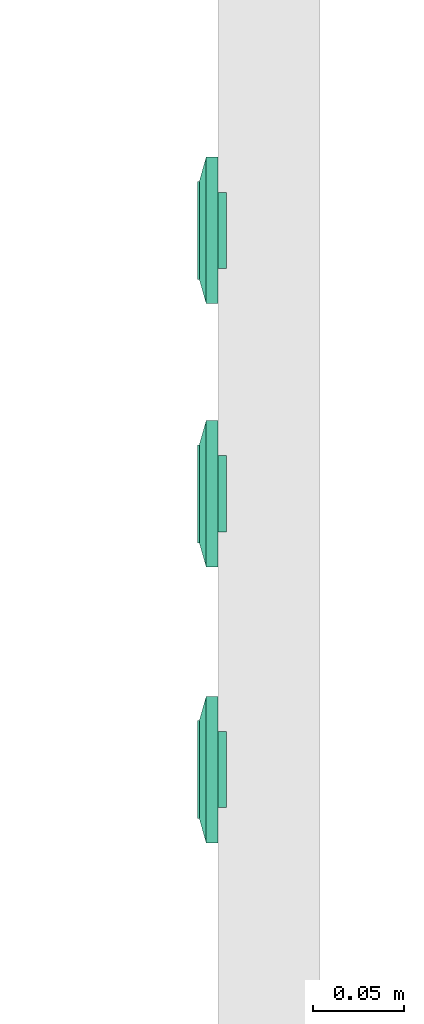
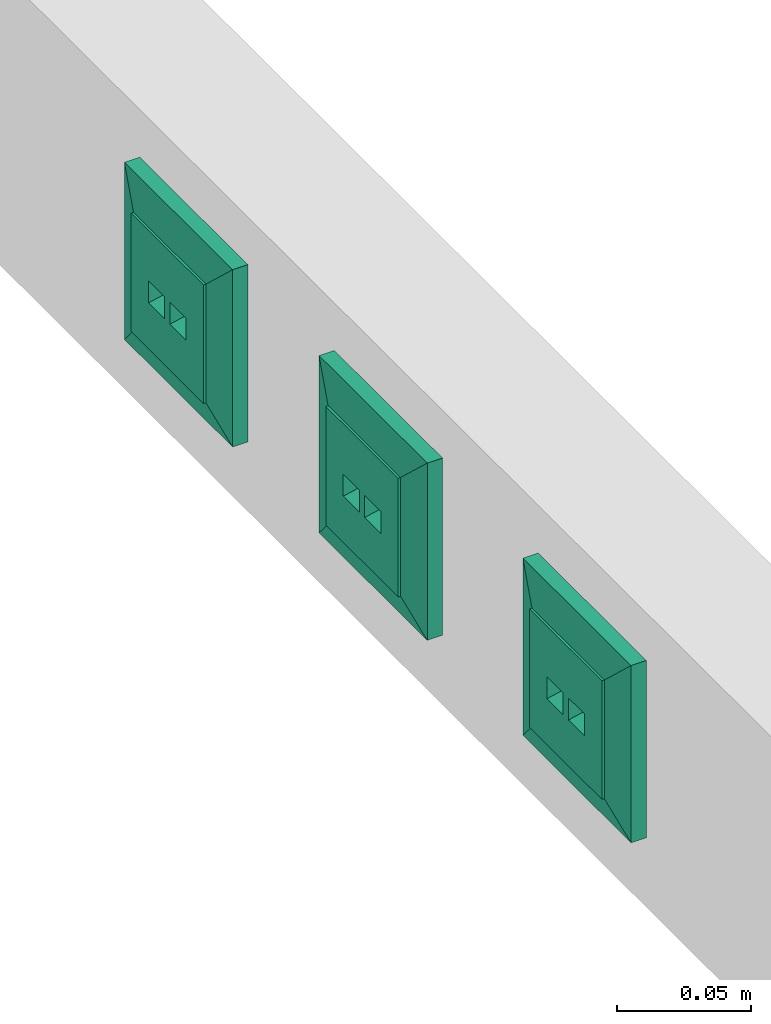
# One storey, part 61 of 166: 3 flow terminals.
"""IFC2X3 building model written with IfcOpenShell, lengths in metres."""

from ifc_helpers import new_model, entity, si_unit, converted_unit, derived_unit, direction, frame, origin, place, context, subcontext, project, spatial, faceted_brep, source, transform, mapped, type_object, type_shapes, element, save


model = new_model("IFC2X3")

# Units and contexts
model_context = context("Model", 3, precision=1e-05, world=origin(), true_north=direction((6.12303176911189e-17, 1.0)))
body_context = subcontext(model_context, "Body", "Model", "MODEL_VIEW")
ifc_project = project(units=[si_unit("LENGTHUNIT", "METRE"), si_unit("AREAUNIT", "SQUARE_METRE"), si_unit("VOLUMEUNIT", "CUBIC_METRE"), converted_unit("PLANEANGLEUNIT", "DEGREE", entity("IfcRatioMeasure", 0.0174532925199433), si_unit("PLANEANGLEUNIT", "RADIAN"), dimensions=[0, 0, 0, 0, 0, 0, 0]), si_unit("MASSUNIT", "GRAM", prefix="KILO"), derived_unit("MASSDENSITYUNIT", [(si_unit("MASSUNIT", "GRAM", prefix="KILO"), 1), (si_unit("LENGTHUNIT", "METRE"), -3)]), si_unit("TIMEUNIT", "SECOND"), si_unit("FREQUENCYUNIT", "HERTZ"), si_unit("THERMODYNAMICTEMPERATUREUNIT", "DEGREE_CELSIUS"), derived_unit("THERMALTRANSMITTANCEUNIT", [(si_unit("MASSUNIT", "GRAM", prefix="KILO"), 1), (si_unit("THERMODYNAMICTEMPERATUREUNIT", "KELVIN"), -1), (si_unit("TIMEUNIT", "SECOND"), -3)]), derived_unit("VOLUMETRICFLOWRATEUNIT", [(si_unit("LENGTHUNIT", "METRE"), 3), (si_unit("TIMEUNIT", "SECOND"), -1)]), si_unit("ELECTRICCURRENTUNIT", "AMPERE"), si_unit("ELECTRICVOLTAGEUNIT", "VOLT"), si_unit("POWERUNIT", "WATT"), si_unit("FORCEUNIT", "NEWTON"), si_unit("ILLUMINANCEUNIT", "LUX"), si_unit("LUMINOUSFLUXUNIT", "LUMEN"), si_unit("LUMINOUSINTENSITYUNIT", "CANDELA"), derived_unit("USERDEFINED", [(si_unit("MASSUNIT", "GRAM", prefix="KILO"), -1), (si_unit("LENGTHUNIT", "METRE"), -2), (si_unit("TIMEUNIT", "SECOND"), 3), (si_unit("LUMINOUSFLUXUNIT", "LUMEN"), 1)]), derived_unit("LINEARVELOCITYUNIT", [(si_unit("LENGTHUNIT", "METRE"), 1), (si_unit("TIMEUNIT", "SECOND"), -1)]), si_unit("PRESSUREUNIT", "PASCAL"), derived_unit("USERDEFINED", [(si_unit("LENGTHUNIT", "METRE"), -2), (si_unit("MASSUNIT", "GRAM", prefix="KILO"), 1), (si_unit("TIMEUNIT", "SECOND"), -2)])], contexts=[model_context])

# Site, building, storey
site_placement = place(None, origin())
site = spatial("IfcSite", under=ifc_project, at=site_placement, Name="Default", CompositionType="ELEMENT")
building_placement = place(site_placement, origin())
building = spatial("IfcBuilding", under=site, at=building_placement, CompositionType="ELEMENT")
storey_placement = place(building_placement, frame((0.0, 0.0, 4.27)))
storey = spatial("IfcBuildingStorey", under=building, at=storey_placement, Name="01", CompositionType="ELEMENT", Elevation=4.27)

# Flow terminals
electric_appliance_type = type_object("IfcElectricApplianceType", Name="RJ45 IP20", PredefinedType="NOTDEFINED")
shared_shape = source(origin(), body_context, "Body", "Brep", [
    faceted_brep([(0.00200000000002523, 0.0, 0.00799999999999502), (0.00400000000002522, 0.0, 0.00799999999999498), (0.00500000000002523, 0.00199999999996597, 0.00799999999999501), (0.0110000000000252, 0.00199999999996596, 0.00799999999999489), (0.0120000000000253, 0.0, 0.00799999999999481), (0.0140000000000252, 0.0, 0.00799999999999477), (0.0140000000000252, 0.00399999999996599, 0.00799999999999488), (0.00200000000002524, 0.00399999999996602, 0.00799999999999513), (0.00200000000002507, 0.0, 0.0), (0.00200000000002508, 0.00399999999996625, 0.0), (0.0140000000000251, 0.00399999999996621, 0.0), (0.0140000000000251, 0.0, 0.0), (0.0120000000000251, 0.0, 0.0), (0.0110000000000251, 0.00199999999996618, 0.0), (0.00500000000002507, 0.0019999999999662, 0.0), (0.00400000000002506, 0.0, 0.0)], [[[0, 1, 2, 3, 4, 5, 6, 7]], [[8, 9, 10, 11, 12, 13, 14, 15]], [[1, 0, 8, 15]], [[2, 1, 15, 14]], [[3, 2, 14, 13]], [[4, 3, 13, 12]], [[5, 4, 12, 11]], [[6, 5, 11, 10]], [[7, 6, 10, 9]], [[0, 7, 9, 8]]]),
    faceted_brep([(-0.0139999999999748, 0.0, 0.00799999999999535), (-0.0119999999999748, 0.0, 0.00799999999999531), (-0.0109999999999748, 0.00199999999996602, 0.00799999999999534), (-0.00499999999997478, 0.00199999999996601, 0.00799999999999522), (-0.0039999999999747, 0.0, 0.00799999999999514), (-0.00199999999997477, 0.0, 0.0079999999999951), (-0.00199999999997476, 0.00399999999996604, 0.00799999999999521), (-0.0139999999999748, 0.00399999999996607, 0.00799999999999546), (-0.0139999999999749, 0.0, 0.0), (-0.0139999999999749, 0.00399999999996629, 0.0), (-0.00199999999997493, 0.00399999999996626, 0.0), (-0.00199999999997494, 0.0, 0.0), (-0.00399999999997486, 0.0, 0.0), (-0.00499999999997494, 0.00199999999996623, 0.0), (-0.0109999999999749, 0.00199999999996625, 0.0), (-0.0119999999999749, 0.0, 0.0)], [[[0, 1, 2, 3, 4, 5, 6, 7]], [[8, 9, 10, 11, 12, 13, 14, 15]], [[1, 0, 8, 15]], [[2, 1, 15, 14]], [[3, 2, 14, 13]], [[4, 3, 13, 12]], [[5, 4, 12, 11]], [[6, 5, 11, 10]], [[7, 6, 10, 9]], [[0, 7, 9, 8]]]),
    faceted_brep([(0.0140000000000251, 0.00399999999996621, 0.0), (0.00200000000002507, 0.00399999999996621, 0.0), (0.00200000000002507, -0.00350000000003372, 0.0), (0.0140000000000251, -0.00350000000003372, 0.0), (0.0140000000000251, 0.00399999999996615, 0.00199999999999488), (0.00200000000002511, 0.00399999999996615, 0.00199999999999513), (0.00200000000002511, -0.00393859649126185, 0.00199999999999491), (0.0140000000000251, -0.00393859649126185, 0.00199999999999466), (0.0210000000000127, 0.0209999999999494, 0.00199999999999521), (-0.0209999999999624, 0.0209999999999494, 0.00199999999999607), (-0.0209999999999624, -0.0210000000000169, 0.00199999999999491), (0.0210000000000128, -0.0210000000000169, 0.00199999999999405), (-0.0139999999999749, 0.0039999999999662, 0.00199999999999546), (-0.0019999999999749, 0.0039999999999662, 0.00199999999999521), (-0.00199999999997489, -0.0039385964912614, 0.00199999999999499), (-0.0139999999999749, -0.00393859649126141, 0.00199999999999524), (0.0210000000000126, 0.0209999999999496, -0.00460000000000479), (0.0210000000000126, -0.0210000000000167, -0.00460000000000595), (-0.0209999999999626, -0.0210000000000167, -0.00460000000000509), (-0.0209999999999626, 0.0209999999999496, -0.00460000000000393), (-0.00199999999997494, 0.00399999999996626, 0.0), (-0.0139999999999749, 0.00399999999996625, 0.0), (-0.0139999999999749, -0.00350000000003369, 0.0), (-0.00199999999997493, -0.00350000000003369, 0.0)], [[[0, 1, 2, 3]], [[1, 0, 4, 5]], [[2, 1, 5, 6]], [[3, 2, 6, 7]], [[0, 3, 7, 4]], [[5, 4, 7, 6], [8, 9, 10, 11], [12, 13, 14, 15]], [[16, 17, 18, 19]], [[9, 8, 16, 19]], [[10, 9, 19, 18]], [[11, 10, 18, 17]], [[8, 11, 17, 16]], [[20, 21, 22, 23]], [[21, 20, 13, 12]], [[22, 21, 12, 15]], [[23, 22, 15, 14]], [[20, 23, 14, 13]]], outer=[[True], [True], [True], [True], [True], [False, True, False], [True], [True], [True], [True], [True], [True], [True], [True], [True], [True]]),
    faceted_brep([(0.0270000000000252, 0.026999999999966, 0.0113999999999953), (-0.0269999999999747, 0.026999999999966, 0.0113999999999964), (-0.0269999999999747, -0.0270000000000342, 0.0113999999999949), (0.0270000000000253, -0.0270000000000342, 0.0113999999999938), (0.0020000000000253, 0.00399999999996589, 0.0113999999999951), (0.0140000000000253, 0.00399999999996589, 0.0113999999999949), (0.0140000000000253, -0.00600000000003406, 0.0113999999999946), (0.0020000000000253, -0.00600000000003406, 0.0113999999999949), (-0.0139999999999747, 0.00399999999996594, 0.0113999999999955), (-0.00199999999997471, 0.00399999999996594, 0.0113999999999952), (-0.00199999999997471, -0.0060000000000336, 0.0113999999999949), (-0.0139999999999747, -0.00600000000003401, 0.0113999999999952), (0.0270000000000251, 0.0269999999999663, 0.00199999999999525), (0.0270000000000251, -0.0270000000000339, 0.00199999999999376), (-0.0269999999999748, -0.0270000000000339, 0.00199999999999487), (-0.0269999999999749, 0.0269999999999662, 0.00199999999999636), (0.0140000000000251, 0.00399999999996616, 0.00199999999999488), (0.00200000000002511, 0.00399999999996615, 0.00199999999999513), (0.00200000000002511, -0.00393859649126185, 0.00199999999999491), (0.0140000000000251, -0.00393859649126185, 0.00199999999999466), (-0.00199999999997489, 0.0039999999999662, 0.00199999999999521), (-0.0139999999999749, 0.0039999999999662, 0.00199999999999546), (-0.0139999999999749, -0.0039385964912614, 0.00199999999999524), (-0.00199999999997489, -0.0039385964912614, 0.00199999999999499)], [[[0, 1, 2, 3], [4, 5, 6, 7], [8, 9, 10, 11]], [[12, 13, 14, 15], [16, 17, 18, 19], [20, 21, 22, 23]], [[1, 0, 12, 15]], [[2, 1, 15, 14]], [[3, 2, 14, 13]], [[0, 3, 13, 12]], [[4, 17, 16, 5]], [[17, 4, 7, 18]], [[18, 7, 6, 19]], [[5, 16, 19, 6]], [[8, 21, 20, 9]], [[21, 8, 11, 22]], [[22, 11, 10, 23]], [[9, 20, 23, 10]]]),
    faceted_brep([(0.027000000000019, 0.0269999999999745, 0.00659999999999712), (-0.0269999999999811, 0.0269999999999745, 0.00659999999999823), (-0.026999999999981, -0.0270000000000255, 0.00659999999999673), (0.027000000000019, -0.0270000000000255, 0.00659999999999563), (0.040350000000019, 0.0403499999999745, 0.00659999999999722), (0.040350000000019, -0.0403500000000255, 0.00659999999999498), (-0.0403499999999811, -0.0403500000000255, 0.00659999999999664), (-0.0403499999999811, 0.0403499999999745, 0.00659999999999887), (-0.026999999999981, 0.0269999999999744, 0.0103999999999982), (0.027000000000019, 0.0269999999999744, 0.0103999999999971), (-0.026999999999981, -0.0270000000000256, 0.0103999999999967), (0.027000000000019, -0.0270000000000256, 0.0103999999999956)], [[[0, 1, 2, 3], [4, 5, 6, 7]], [[4, 7, 8, 9]], [[7, 6, 10, 8]], [[6, 5, 11, 10]], [[5, 4, 9, 11]], [[0, 9, 8, 1]], [[1, 8, 10, 2]], [[2, 10, 11, 3]], [[9, 0, 3, 11]]], outer=[[False, True], [True], [True], [True], [True], [True], [True], [True], [True]]),
    faceted_brep([(0.040350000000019, 0.0403499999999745, 0.00659999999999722), (-0.0403499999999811, 0.0403499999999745, 0.00659999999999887), (-0.0403499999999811, -0.0403500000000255, 0.00659999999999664), (0.040350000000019, -0.0403500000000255, 0.00659999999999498), (-0.0269999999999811, 0.0269999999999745, 0.00659999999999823), (0.0270000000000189, 0.0269999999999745, 0.00659999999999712), (0.0270000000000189, -0.0270000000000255, 0.00659999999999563), (-0.0269999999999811, -0.0270000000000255, 0.00659999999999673), (0.0403500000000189, 0.0403499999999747, 0.0), (0.0403500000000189, -0.0403500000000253, 0.0), (-0.0403499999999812, -0.0403500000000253, 0.0), (-0.0403499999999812, 0.0403499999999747, 0.0), (0.0270000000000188, 0.0269999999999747, 0.0), (-0.0269999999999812, 0.0269999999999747, 0.0), (-0.0269999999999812, -0.0270000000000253, 0.0), (0.0270000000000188, -0.0270000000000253, 0.0)], [[[0, 1, 2, 3], [4, 5, 6, 7]], [[8, 9, 10, 11], [12, 13, 14, 15]], [[1, 0, 8, 11]], [[2, 1, 11, 10]], [[3, 2, 10, 9]], [[0, 3, 9, 8]], [[12, 5, 4, 13]], [[13, 4, 7, 14]], [[14, 7, 6, 15]], [[5, 12, 15, 6]]]),
])
type_shapes(electric_appliance_type, [shared_shape])
for number, where, z_axis, x_axis in (
    (1, (37.3667436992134, -187.104942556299, 4.70800000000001), (-1.0, 0.0, 0.0), (0.0, -1.0, 0.0)),
    (2, (37.3667436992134, -186.959783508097, 4.70800000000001), (-1.0, 0.0, 0.0), (0.0, -1.0, 0.0)),
    (3, (37.3667436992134, -187.256942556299, 4.70800000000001), (-1.0, 0.0, 0.0), (0.0, -1.0, 0.0)),
):
    element("IfcFlowTerminal", number, at=place(building_placement, frame(where, z_axis=z_axis, x_axis=x_axis)), inside=storey, type_object=electric_appliance_type, Name="INT_Prise RJ45:RJ45 IP20", ObjectType="INT_Prise RJ45:RJ45 IP20", context=body_context, shape_type="MappedRepresentation", body=[
        mapped(shared_shape, transform((0.0, 0.0, 0.0), scale=1.0)),
    ])

save(model, "model.ifc")
